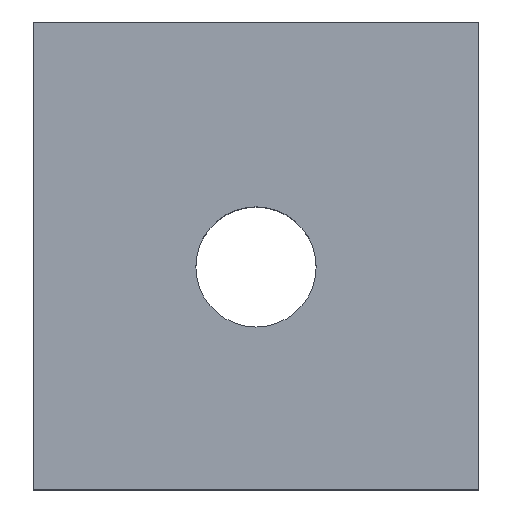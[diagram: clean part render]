
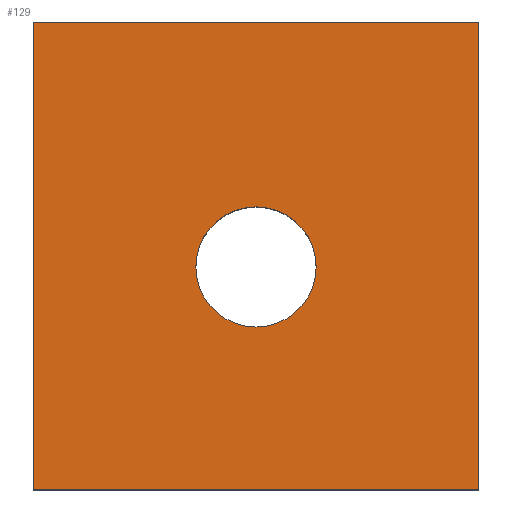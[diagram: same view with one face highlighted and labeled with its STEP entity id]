
A CAD part, top view. The second image highlights one B-rep face of the part: STEP entity #129.
In plain terms, the highlighted planar face has unit normal (0, 0, 1).
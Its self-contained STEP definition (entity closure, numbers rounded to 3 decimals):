
#8 = DIRECTION ( 'NONE',  ( 0., -1., 0. ) ) ;
#14 = VERTEX_POINT ( 'NONE', #186 ) ;
#15 = VERTEX_POINT ( 'NONE', #127 ) ;
#23 = DIRECTION ( 'NONE',  ( 0., -1., 0. ) ) ;
#25 = CIRCLE ( 'NONE', #68, 1.35 ) ;
#26 = CARTESIAN_POINT ( 'NONE',  ( -5., 0., 2.5 ) ) ;
#42 = LINE ( 'NONE', #164, #272 ) ;
#52 = ORIENTED_EDGE ( 'NONE', *, *, #120, .F. ) ;
#53 = CARTESIAN_POINT ( 'NONE',  ( -5., 10.5, 2.5 ) ) ;
#54 = VECTOR ( 'NONE', #218, 1000. ) ;
#57 = LINE ( 'NONE', #223, #142 ) ;
#64 = DIRECTION ( 'NONE',  ( -1., 0., 0. ) ) ;
#67 = PLANE ( 'NONE',  #163 ) ;
#68 = AXIS2_PLACEMENT_3D ( 'NONE', #214, #175, #119 ) ;
#74 = EDGE_CURVE ( 'NONE', #222, #15, #185, .T. ) ;
#98 = DIRECTION ( 'NONE',  ( 1., 0., 0. ) ) ;
#108 = CARTESIAN_POINT ( 'NONE',  ( 1.35, 5., 2.5 ) ) ;
#109 = ORIENTED_EDGE ( 'NONE', *, *, #258, .F. ) ;
#119 = DIRECTION ( 'NONE',  ( 1., 0., 0. ) ) ;
#120 = EDGE_CURVE ( 'NONE', #199, #199, #25, .T. ) ;
#126 = LINE ( 'NONE', #53, #252 ) ;
#127 = CARTESIAN_POINT ( 'NONE',  ( 5., 0., 2.5 ) ) ;
#129 = ADVANCED_FACE ( 'NONE', ( #234, #251 ), #67, .F. ) ;
#134 = EDGE_CURVE ( 'NONE', #224, #222, #126, .T. ) ;
#137 = EDGE_LOOP ( 'NONE', ( #52 ) ) ;
#142 = VECTOR ( 'NONE', #98, 1000. ) ;
#143 = CARTESIAN_POINT ( 'NONE',  ( -5., 10.5, 2.5 ) ) ;
#146 = CARTESIAN_POINT ( 'NONE',  ( -5., 10.5, 2.5 ) ) ;
#163 = AXIS2_PLACEMENT_3D ( 'NONE', #143, #212, #64 ) ;
#164 = CARTESIAN_POINT ( 'NONE',  ( 5., 10.5, 2.5 ) ) ;
#175 = DIRECTION ( 'NONE',  ( 0., 0., 1. ) ) ;
#185 = LINE ( 'NONE', #26, #54 ) ;
#186 = CARTESIAN_POINT ( 'NONE',  ( 5., 10.5, 2.5 ) ) ;
#188 = CARTESIAN_POINT ( 'NONE',  ( -5., 0., 2.5 ) ) ;
#196 = ORIENTED_EDGE ( 'NONE', *, *, #74, .T. ) ;
#199 = VERTEX_POINT ( 'NONE', #108 ) ;
#207 = ORIENTED_EDGE ( 'NONE', *, *, #134, .T. ) ;
#212 = DIRECTION ( 'NONE',  ( 0., 0., -1. ) ) ;
#214 = CARTESIAN_POINT ( 'NONE',  ( 0., 5., 2.5 ) ) ;
#215 = ORIENTED_EDGE ( 'NONE', *, *, #227, .F. ) ;
#218 = DIRECTION ( 'NONE',  ( 1., 0., 0. ) ) ;
#222 = VERTEX_POINT ( 'NONE', #188 ) ;
#223 = CARTESIAN_POINT ( 'NONE',  ( -5., 10.5, 2.5 ) ) ;
#224 = VERTEX_POINT ( 'NONE', #146 ) ;
#227 = EDGE_CURVE ( 'NONE', #14, #15, #42, .T. ) ;
#234 = FACE_BOUND ( 'NONE', #137, .T. ) ;
#251 = FACE_OUTER_BOUND ( 'NONE', #270, .T. ) ;
#252 = VECTOR ( 'NONE', #23, 1000. ) ;
#258 = EDGE_CURVE ( 'NONE', #224, #14, #57, .T. ) ;
#270 = EDGE_LOOP ( 'NONE', ( #196, #215, #109, #207 ) ) ;
#272 = VECTOR ( 'NONE', #8, 1000. ) ;
